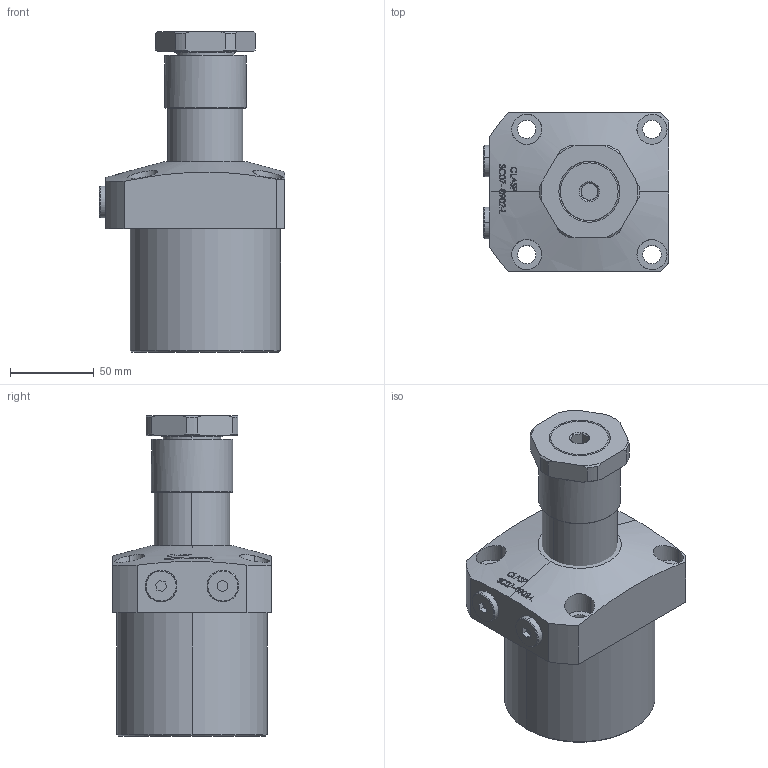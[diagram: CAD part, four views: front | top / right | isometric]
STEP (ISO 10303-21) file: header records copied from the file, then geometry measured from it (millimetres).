
FILE_DESCRIPTION (( 'STEP AP203' ), '1' );
FILE_NAME ('SC07-0902-L.STEP', '2022-07-05T17:55:31', ( '' ), ( '' ), 'SwSTEP 2.0', 'SolidWorks 2017', '' );
FILE_SCHEMA (( 'CONFIG_CONTROL_DESIGN' ));
Length unit declared in the file: millimetre
Products named in the file (6): SC-07-0902-L- BODY; SC07-0902-L-Piston; SC07-0902-L-05 plug; SC07-0902-04 sleeve; SC07-0902-03-nut; SC07-0902-L
Assembly tree (6 placements, depth 2):
  SC07-0902-L
    SC-07-0902-L- BODY
    SC07-0902-L-Piston
    SC07-0902-L-05 plug  x2
    SC07-0902-04 sleeve
    SC07-0902-03-nut
Bounding box: 111 x 95 x 192 mm (x, y, z)
Volume: 974207.2 mm3; surface area: 95047.1 mm2
Topology: 6 solids, 6 shells, 363 faces, 903 edges, 593 vertices
Faces by surface type: plane 154, bspline 96, cylinder 62, cone 49, sphere 2
Entity records: 16912 total; most frequent: CARTESIAN_POINT 8690, ORIENTED_EDGE 1742, DIRECTION 1219, EDGE_CURVE 871, VERTEX_POINT 573, AXIS2_PLACEMENT_3D 417, EDGE_LOOP 398, LINE 385
